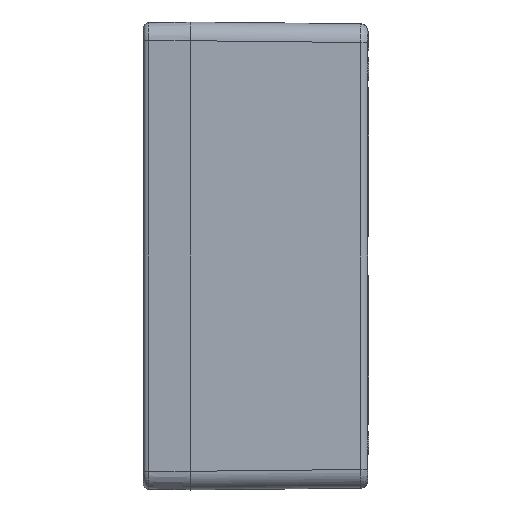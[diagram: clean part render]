
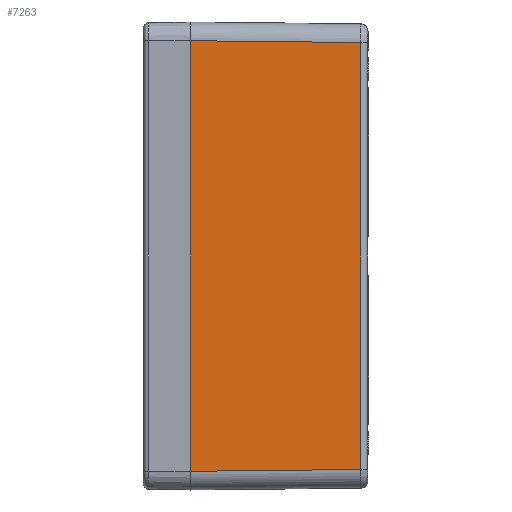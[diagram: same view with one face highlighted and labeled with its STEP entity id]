
A CAD part, left-side view. The second image highlights one B-rep face of the part: STEP entity #7263.
In plain terms, the highlighted planar face has unit normal (-1, -0.011, 0).
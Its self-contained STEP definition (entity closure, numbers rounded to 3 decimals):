
#682=CARTESIAN_POINT('',(-200.,0.,-115.001));
#734=CARTESIAN_POINT('',(-200.,0.,115.001));
#747=DIRECTION('',(0.,0.,-1.));
#748=VECTOR('',#747,230.001);
#749=CARTESIAN_POINT('',(-200.,0.,115.001));
#750=LINE('',#749,#748);
#2981=DIRECTION('',(0.,0.,1.));
#2982=VECTOR('',#2981,228.084);
#2983=CARTESIAN_POINT('',(-199.042,-91.042,
-114.042));
#2984=LINE('',#2983,#2982);
#3032=DIRECTION('',(-0.011,1.,-0.011));
#3033=VECTOR('',#3032,91.052);
#3034=CARTESIAN_POINT('',(-199.042,-91.042,
-114.042));
#3035=LINE('',#3034,#3033);
#3039=DIRECTION('',(-0.011,1.,0.011));
#3040=VECTOR('',#3039,91.052);
#3041=CARTESIAN_POINT('',(-199.042,-91.042,
114.042));
#3042=LINE('',#3041,#3040);
#3046=CARTESIAN_POINT('',(-199.042,-91.042,
-114.042));
#3168=CARTESIAN_POINT('',(-199.042,-91.042,
114.042));
#3856=VERTEX_POINT('',#682);
#3861=VERTEX_POINT('',#734);
#3865=VERTEX_POINT('',#3046);
#3884=VERTEX_POINT('',#3168);
#7250=CARTESIAN_POINT('',(-199.5,-47.5,0.));
#7251=DIRECTION('',(1.,0.011,0.));
#7252=DIRECTION('',(-0.011,1.,0.));
#7253=AXIS2_PLACEMENT_3D('',#7250,#7251,#7252);
#7254=PLANE('',#7253);
#7255=ORIENTED_EDGE('',*,*,#7210,.F.);
#7257=ORIENTED_EDGE('',*,*,#7256,.T.);
#7258=ORIENTED_EDGE('',*,*,#4350,.F.);
#7260=ORIENTED_EDGE('',*,*,#7259,.F.);
#7261=EDGE_LOOP('',(#7255,#7257,#7258,#7260));
#7262=FACE_OUTER_BOUND('',#7261,.F.);
#4350=EDGE_CURVE('',#3861,#3856,#750,.T.);
#7210=EDGE_CURVE('',#3865,#3884,#2984,.T.);
#7256=EDGE_CURVE('',#3865,#3856,#3035,.T.);
#7259=EDGE_CURVE('',#3884,#3861,#3042,.T.);
#7263=ADVANCED_FACE('',(#7262),#7254,.F.);
